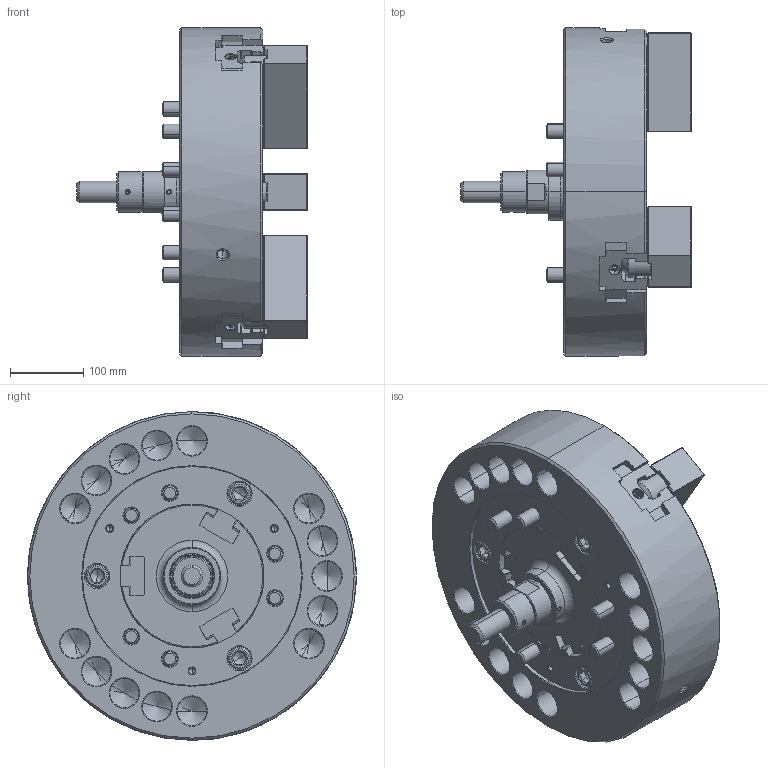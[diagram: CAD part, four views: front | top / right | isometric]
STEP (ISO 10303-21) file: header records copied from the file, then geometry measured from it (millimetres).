
FILE_DESCRIPTION (( 'STEP AP214' ), '1' );
FILE_NAME ('DT1_N-18_OUTSIDE_VIEW_OC.STEP', '2026-03-13T00:54:59', ( '' ), ( '' ), 'SwSTEP 2.0', 'SolidWorks 2022', '' );
FILE_SCHEMA (( 'AUTOMOTIVE_DESIGN' ));
Length unit declared in the file: millimetre
Products named in the file (11): DT1_N-18_M20x115^DT1_N-18; DT1_N-18_M6x12^DT1_N-18; DT1_N-18_COVER^DT1_N-18; DT1_N-18_DRAWSCREW^DT1_N-18; DT1_N-18_SOFTJAW^DT1_N-18; DT1_N-18_BASE^DT1_N-18; DT1_N-18_TNUT^DT1_N-18; DT1_N-18_DN^DT1_N-18; DT1_N-18_OUTSIDE_VIEW_OC; Copy of 61P321208^DT1_N-18; DT1_N-18_M20x55^DT1_N-18
Assembly tree (29 placements, depth 2):
  DT1_N-18_OUTSIDE_VIEW_OC
    DT1_N-18_SOFTJAW^DT1_N-18  x3
    DT1_N-18_TNUT^DT1_N-18  x6
    DT1_N-18_COVER^DT1_N-18
    DT1_N-18_DRAWSCREW^DT1_N-18
    Copy of 61P321208^DT1_N-18
    DT1_N-18_DN^DT1_N-18
    DT1_N-18_BASE^DT1_N-18
    DT1_N-18_M6x12^DT1_N-18  x3
    DT1_N-18_M20x115^DT1_N-18  x6
    DT1_N-18_M20x55^DT1_N-18  x6
Bounding box: 316 x 450 x 450 mm (x, y, z)
Volume: 17454055.9 mm3; surface area: 1212345.8 mm2
Topology: 29 solids, 35 shells, 7051 faces, 19888 edges, 13053 vertices
Faces by surface type: plane 5009, cylinder 874, bspline 599, cone 501, torus 62, sphere 6
Entity records: 200658 total; most frequent: CARTESIAN_POINT 64208, ORIENTED_EDGE 31016, DIRECTION 23832, EDGE_CURVE 15508, LINE 11780, VECTOR 11780, VERTEX_POINT 10219, AXIS2_PLACEMENT_3D 6026
